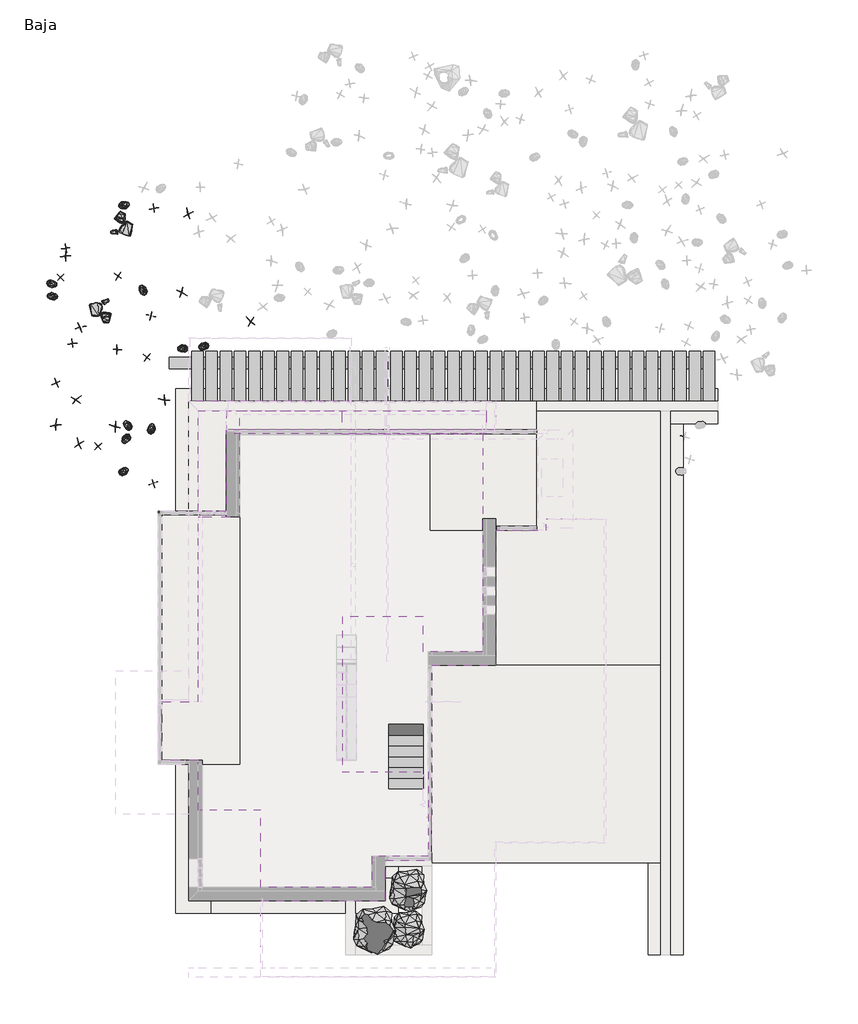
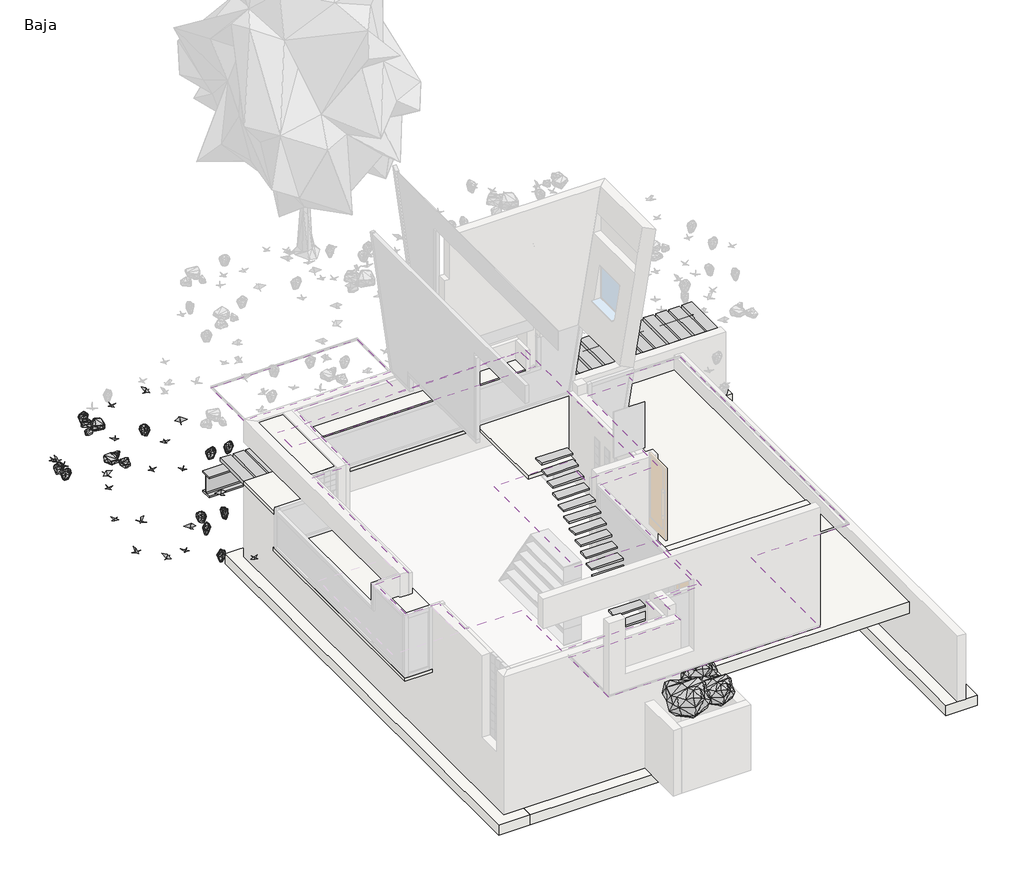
# One storey, part 5 of 7: 38 beams, 36 geographic elements, 10 footings, 7 slabs, 4 coverings, 1 stair flight.
"""IFC4 building model written with IfcOpenShell, lengths in millimetres."""

from ifc_helpers import new_model, si_unit, frame, origin, place, context, project, spatial, polyline, outline, extrude, faceted_brep, transform, mapped, element, save
from components import beam_300_x100_1f1f1255, he_vigas_de_ala_ancha_he_600x337_a84f927f, geographic_element_19c6f7b0, geographic_element_0c7ed200, geographic_element_4c54da16, enscape_assetdefinition_bush_025_fern_enscape_5718bf32, enscape_assetdefinition_bush_054_plant_09_version_2_enscape_7b546a12, enscape_assetdefinition_bush_062_plant_09_version_3_enscape_ccf8c8eb, enscape_assetdefinition_stone_013_group_enscape_db9b3e91, stair_flight_09f7f50a

model = new_model("IFC4")

# Units and contexts
model_context = context("Model", 3, world=origin())
ifc_project = project(units=[si_unit("LENGTHUNIT", "METRE", prefix="MILLI")], contexts=[model_context])

# Site, building, storey
site = spatial("IfcSite", under=ifc_project)
building = spatial("IfcBuilding", under=site)
storey = spatial("IfcBuildingStorey", under=building, Name="Baja", Elevation=0.0)

# Beams
placement = place(None, origin())
beam_300_x100_shape = beam_300_x100_1f1f1255(model_context)
element("IfcBeam", 1, ObjectType="Glulam-Especies occidentales : 300 x100", at=placement, inside=storey, context=model_context, shape_type="MappedRepresentation", body=[
    mapped(beam_300_x100_shape, transform((9316.4398199, 3257.3330963, 650.0), x_axis=(0.0, -1.0, 0.0), y_axis=(1.0, 0.0, 0.0), z_axis=(0.0, 0.0, 1.0))),
])
element("IfcBeam", 2, ObjectType="Glulam-Especies occidentales : 300 x100", at=placement, inside=storey, context=model_context, shape_type="MappedRepresentation", body=[
    mapped(beam_300_x100_shape, transform((8946.4398199, 3257.3330963, 650.0), x_axis=(0.0, -1.0, 0.0), y_axis=(1.0, 0.0, 0.0), z_axis=(0.0, 0.0, 1.0))),
])
element("IfcBeam", 3, ObjectType="Glulam-Especies occidentales : 300 x100", at=placement, inside=storey, context=model_context, shape_type="MappedRepresentation", body=[
    mapped(beam_300_x100_shape, transform((8576.4398199, 3257.3330963, 650.0), x_axis=(0.0, -1.0, 0.0), y_axis=(1.0, 0.0, 0.0), z_axis=(0.0, 0.0, 1.0))),
])
element("IfcBeam", 4, ObjectType="Glulam-Especies occidentales : 300 x100", at=placement, inside=storey, context=model_context, shape_type="MappedRepresentation", body=[
    mapped(beam_300_x100_shape, transform((8206.4398199, 3257.3330963, 650.0), x_axis=(0.0, -1.0, 0.0), y_axis=(1.0, 0.0, 0.0), z_axis=(0.0, 0.0, 1.0))),
])
element("IfcBeam", 5, ObjectType="Glulam-Especies occidentales : 300 x100", at=placement, inside=storey, context=model_context, shape_type="MappedRepresentation", body=[
    mapped(beam_300_x100_shape, transform((7836.4398199, 3257.3330963, 650.0), x_axis=(0.0, -1.0, 0.0), y_axis=(1.0, 0.0, 0.0), z_axis=(0.0, 0.0, 1.0))),
])
element("IfcBeam", 6, ObjectType="Glulam-Especies occidentales : 300 x100", at=placement, inside=storey, context=model_context, shape_type="MappedRepresentation", body=[
    mapped(beam_300_x100_shape, transform((7466.4398199, 3257.3330963, 650.0), x_axis=(0.0, -1.0, 0.0), y_axis=(1.0, 0.0, 0.0), z_axis=(0.0, 0.0, 1.0))),
])
element("IfcBeam", 7, ObjectType="Glulam-Especies occidentales : 300 x100", at=placement, inside=storey, context=model_context, shape_type="MappedRepresentation", body=[
    mapped(beam_300_x100_shape, transform((7096.4398199, 3257.3330963, 650.0), x_axis=(0.0, -1.0, 0.0), y_axis=(1.0, 0.0, 0.0), z_axis=(0.0, 0.0, 1.0))),
])
element("IfcBeam", 8, ObjectType="Glulam-Especies occidentales : 300 x100", at=placement, inside=storey, context=model_context, shape_type="MappedRepresentation", body=[
    mapped(beam_300_x100_shape, transform((6726.4398199, 3257.3330963, 650.0), x_axis=(0.0, -1.0, 0.0), y_axis=(1.0, 0.0, 0.0), z_axis=(0.0, 0.0, 1.0))),
])
element("IfcBeam", 9, ObjectType="Glulam-Especies occidentales : 300 x100", at=placement, inside=storey, context=model_context, shape_type="MappedRepresentation", body=[
    mapped(beam_300_x100_shape, transform((6356.4398199, 3257.3330963, 650.0), x_axis=(0.0, -1.0, 0.0), y_axis=(1.0, 0.0, 0.0), z_axis=(0.0, 0.0, 1.0))),
])
element("IfcBeam", 10, ObjectType="Glulam-Especies occidentales : 300 x100", at=placement, inside=storey, context=model_context, shape_type="MappedRepresentation", body=[
    mapped(beam_300_x100_shape, transform((5986.4398199, 3257.3330963, 650.0), x_axis=(0.0, -1.0, 0.0), y_axis=(1.0, 0.0, 0.0), z_axis=(0.0, 0.0, 1.0))),
])
element("IfcBeam", 11, ObjectType="Glulam-Especies occidentales : 300 x100", at=placement, inside=storey, context=model_context, shape_type="MappedRepresentation", body=[
    mapped(beam_300_x100_shape, transform((5616.4398199, 3257.3330963, 650.0), x_axis=(0.0, -1.0, 0.0), y_axis=(1.0, 0.0, 0.0), z_axis=(0.0, 0.0, 1.0))),
])
element("IfcBeam", 12, ObjectType="Glulam-Especies occidentales : 300 x100", at=placement, inside=storey, context=model_context, shape_type="MappedRepresentation", body=[
    mapped(beam_300_x100_shape, transform((5246.4398199, 3257.3330963, 650.0), x_axis=(0.0, -1.0, 0.0), y_axis=(1.0, 0.0, 0.0), z_axis=(0.0, 0.0, 1.0))),
])
element("IfcBeam", 13, ObjectType="Glulam-Especies occidentales : 300 x100", at=placement, inside=storey, context=model_context, shape_type="MappedRepresentation", body=[
    mapped(beam_300_x100_shape, transform((4876.4398199, 3257.3330963, 650.0), x_axis=(0.0, -1.0, 0.0), y_axis=(1.0, 0.0, 0.0), z_axis=(0.0, 0.0, 1.0))),
])
element("IfcBeam", 14, ObjectType="Glulam-Especies occidentales : 300 x100", at=placement, inside=storey, context=model_context, shape_type="MappedRepresentation", body=[
    mapped(beam_300_x100_shape, transform((4506.4398199, 3257.3330963, 650.0), x_axis=(0.0, -1.0, 0.0), y_axis=(1.0, 0.0, 0.0), z_axis=(0.0, 0.0, 1.0))),
])
element("IfcBeam", 15, ObjectType="Glulam-Especies occidentales : 300 x100", at=placement, inside=storey, context=model_context, shape_type="MappedRepresentation", body=[
    mapped(beam_300_x100_shape, transform((4136.4398199, 3257.3330963, 650.0), x_axis=(0.0, -1.0, 0.0), y_axis=(1.0, 0.0, 0.0), z_axis=(0.0, 0.0, 1.0))),
])
element("IfcBeam", 16, ObjectType="Glulam-Especies occidentales : 300 x100", at=placement, inside=storey, context=model_context, shape_type="MappedRepresentation", body=[
    mapped(beam_300_x100_shape, transform((3766.4398199, 3257.3330963, 650.0), x_axis=(0.0, -1.0, 0.0), y_axis=(1.0, 0.0, 0.0), z_axis=(0.0, 0.0, 1.0))),
])
element("IfcBeam", 17, ObjectType="Glulam-Especies occidentales : 300 x100", at=placement, inside=storey, context=model_context, shape_type="MappedRepresentation", body=[
    mapped(beam_300_x100_shape, transform((3396.4398199, 3257.3330963, 650.0), x_axis=(0.0, -1.0, 0.0), y_axis=(1.0, 0.0, 0.0), z_axis=(0.0, 0.0, 1.0))),
])
element("IfcBeam", 18, ObjectType="Glulam-Especies occidentales : 300 x100", at=placement, inside=storey, context=model_context, shape_type="MappedRepresentation", body=[
    mapped(beam_300_x100_shape, transform((3026.4398199, 3257.3330963, 650.0), x_axis=(0.0, -1.0, 0.0), y_axis=(1.0, 0.0, 0.0), z_axis=(0.0, 0.0, 1.0))),
])
element("IfcBeam", 19, ObjectType="Glulam-Especies occidentales : 300 x100", at=placement, inside=storey, context=model_context, shape_type="MappedRepresentation", body=[
    mapped(beam_300_x100_shape, transform((2656.4398199, 3257.3330963, 650.0), x_axis=(0.0, -1.0, 0.0), y_axis=(1.0, 0.0, 0.0), z_axis=(0.0, 0.0, 1.0))),
])
element("IfcBeam", 20, ObjectType="Glulam-Especies occidentales : 300 x100", at=placement, inside=storey, context=model_context, shape_type="MappedRepresentation", body=[
    mapped(beam_300_x100_shape, transform((2286.4398199, 3257.3330963, 650.0), x_axis=(0.0, -1.0, 0.0), y_axis=(1.0, 0.0, 0.0), z_axis=(0.0, 0.0, 1.0))),
])
element("IfcBeam", 21, ObjectType="Glulam-Especies occidentales : 300 x100", at=placement, inside=storey, context=model_context, shape_type="MappedRepresentation", body=[
    mapped(beam_300_x100_shape, transform((1916.4398199, 3257.3330963, 650.0), x_axis=(0.0, -1.0, 0.0), y_axis=(1.0, 0.0, 0.0), z_axis=(0.0, 0.0, 1.0))),
])
element("IfcBeam", 22, ObjectType="Glulam-Especies occidentales : 300 x100", at=placement, inside=storey, context=model_context, shape_type="MappedRepresentation", body=[
    mapped(beam_300_x100_shape, transform((1546.4398199, 3257.3330963, 650.0), x_axis=(0.0, -1.0, 0.0), y_axis=(1.0, 0.0, 0.0), z_axis=(0.0, 0.0, 1.0))),
])
element("IfcBeam", 23, ObjectType="Glulam-Especies occidentales : 300 x100", at=placement, inside=storey, context=model_context, shape_type="MappedRepresentation", body=[
    mapped(beam_300_x100_shape, transform((1176.4398199, 3257.3330963, 650.0), x_axis=(0.0, -1.0, 0.0), y_axis=(1.0, 0.0, 0.0), z_axis=(0.0, 0.0, 1.0))),
])
element("IfcBeam", 24, ObjectType="Glulam-Especies occidentales : 300 x100", at=placement, inside=storey, context=model_context, shape_type="MappedRepresentation", body=[
    mapped(beam_300_x100_shape, transform((806.4398199, 3257.3330963, 650.0), x_axis=(0.0, -1.0, 0.0), y_axis=(1.0, 0.0, 0.0), z_axis=(0.0, 0.0, 1.0))),
])
element("IfcBeam", 25, ObjectType="Glulam-Especies occidentales : 300 x100", at=placement, inside=storey, context=model_context, shape_type="MappedRepresentation", body=[
    mapped(beam_300_x100_shape, transform((436.4398199, 3257.3330963, 650.0), x_axis=(0.0, -1.0, 0.0), y_axis=(1.0, 0.0, 0.0), z_axis=(0.0, 0.0, 1.0))),
])
element("IfcBeam", 26, ObjectType="Glulam-Especies occidentales : 300 x100", at=placement, inside=storey, context=model_context, shape_type="MappedRepresentation", body=[
    mapped(beam_300_x100_shape, transform((66.4398199, 3257.3330963, 650.0), x_axis=(0.0, -1.0, 0.0), y_axis=(1.0, 0.0, 0.0), z_axis=(0.0, 0.0, 1.0))),
])
element("IfcBeam", 27, ObjectType="Glulam-Especies occidentales : 300 x100", at=placement, inside=storey, context=model_context, shape_type="MappedRepresentation", body=[
    mapped(beam_300_x100_shape, transform((-303.5601801, 3257.3330963, 650.0), x_axis=(0.0, -1.0, 0.0), y_axis=(1.0, 0.0, 0.0), z_axis=(0.0, 0.0, 1.0))),
])
element("IfcBeam", 28, ObjectType="Glulam-Especies occidentales : 300 x100", at=placement, inside=storey, context=model_context, shape_type="MappedRepresentation", body=[
    mapped(beam_300_x100_shape, transform((-673.5601801, 3257.3330963, 650.0), x_axis=(0.0, -1.0, 0.0), y_axis=(1.0, 0.0, 0.0), z_axis=(0.0, 0.0, 1.0))),
])
element("IfcBeam", 29, ObjectType="Glulam-Especies occidentales : 300 x100", at=placement, inside=storey, context=model_context, shape_type="MappedRepresentation", body=[
    mapped(beam_300_x100_shape, transform((-1043.5601801, 3257.3330963, 650.0), x_axis=(0.0, -1.0, 0.0), y_axis=(1.0, 0.0, 0.0), z_axis=(0.0, 0.0, 1.0))),
])
element("IfcBeam", 30, ObjectType="Glulam-Especies occidentales : 300 x100", at=placement, inside=storey, context=model_context, shape_type="MappedRepresentation", body=[
    mapped(beam_300_x100_shape, transform((-1413.5601801, 3257.3330963, 650.0), x_axis=(0.0, -1.0, 0.0), y_axis=(1.0, 0.0, 0.0), z_axis=(0.0, 0.0, 1.0))),
])
element("IfcBeam", 31, ObjectType="Glulam-Especies occidentales : 300 x100", at=placement, inside=storey, context=model_context, shape_type="MappedRepresentation", body=[
    mapped(beam_300_x100_shape, transform((-1783.5601801, 3257.3330963, 650.0), x_axis=(0.0, -1.0, 0.0), y_axis=(1.0, 0.0, 0.0), z_axis=(0.0, 0.0, 1.0))),
])
element("IfcBeam", 32, ObjectType="Glulam-Especies occidentales : 300 x100", at=placement, inside=storey, context=model_context, shape_type="MappedRepresentation", body=[
    mapped(beam_300_x100_shape, transform((-2153.5601801, 3257.3330963, 650.0), x_axis=(0.0, -1.0, 0.0), y_axis=(1.0, 0.0, 0.0), z_axis=(0.0, 0.0, 1.0))),
])
element("IfcBeam", 33, ObjectType="Glulam-Especies occidentales : 300 x100", at=placement, inside=storey, context=model_context, shape_type="MappedRepresentation", body=[
    mapped(beam_300_x100_shape, transform((-2523.5601801, 3257.3330963, 650.0), x_axis=(0.0, -1.0, 0.0), y_axis=(1.0, 0.0, 0.0), z_axis=(0.0, 0.0, 1.0))),
])
element("IfcBeam", 34, ObjectType="Glulam-Especies occidentales : 300 x100", at=placement, inside=storey, context=model_context, shape_type="MappedRepresentation", body=[
    mapped(beam_300_x100_shape, transform((-2893.5601801, 3257.3330963, 650.0), x_axis=(0.0, -1.0, 0.0), y_axis=(1.0, 0.0, 0.0), z_axis=(0.0, 0.0, 1.0))),
])
element("IfcBeam", 35, ObjectType="Glulam-Especies occidentales : 300 x100", at=placement, inside=storey, context=model_context, shape_type="MappedRepresentation", body=[
    mapped(beam_300_x100_shape, transform((-3263.5601801, 3257.3330963, 650.0), x_axis=(0.0, -1.0, 0.0), y_axis=(1.0, 0.0, 0.0), z_axis=(0.0, 0.0, 1.0))),
])
element("IfcBeam", 36, ObjectType="Glulam-Especies occidentales : 300 x100", at=placement, inside=storey, context=model_context, shape_type="MappedRepresentation", body=[
    mapped(beam_300_x100_shape, transform((-3633.5601801, 3257.3330963, 650.0), x_axis=(0.0, -1.0, 0.0), y_axis=(1.0, 0.0, 0.0), z_axis=(0.0, 0.0, 1.0))),
])
element("IfcBeam", 37, ObjectType="Glulam-Especies occidentales : 300 x100", at=placement, inside=storey, context=model_context, shape_type="MappedRepresentation", body=[
    mapped(beam_300_x100_shape, transform((-4003.5601801, 3257.3330963, 650.0), x_axis=(0.0, -1.0, 0.0), y_axis=(1.0, 0.0, 0.0), z_axis=(0.0, 0.0, 1.0))),
])
he_vigas_de_ala_ancha_he_600x337_shape = he_vigas_de_ala_ancha_he_600x337_a84f927f(model_context)
element("IfcBeam", 38, ObjectType="HE - Vigas de ala ancha : HE 600x337", at=placement, inside=storey, context=model_context, shape_type="MappedRepresentation", body=[
    mapped(he_vigas_de_ala_ancha_he_600x337_shape, transform((2510.4869077, 3607.3330963, 284.0), x_axis=(1.0, 0.0, 0.0), y_axis=(0.0, 1.0, 0.0), z_axis=(0.0, 0.0, 1.0))),
])

# Coverings
element("IfcCovering", 39, ObjectType="Falso techo continuo de placa de yeso laminado", at=placement, inside=storey, context=model_context, shape_type="Brep", body=[
    faceted_brep([(-3981.0601801, -5212.6669037, 2700.0), (-4931.0601801, -5212.6669037, 2700.0), (-4931.0601801, -6738.9241022, 2700.0), (-3981.0601801, -6738.9241022, 2700.0), (-3981.0601801, -8042.6669037, 2700.0), (-3881.0601801, -8042.6669037, 2700.0), (-2353.1025942, -8042.6669037, 2700.0), (-2353.1025942, -10047.6669037, 2700.0), (536.8974058, -10047.6669037, 2700.0), (536.8974058, -9242.6669037, 2700.0), (2001.6012558, -9242.6669037, 2700.0), (2001.6012558, -7042.6669037, 2700.0), (-240.8601801, -7042.6669037, 2700.0), (-240.8601801, -3002.6669037, 2700.0), (1871.6012558, -3002.6669037, 2700.0), (1871.6012558, -3912.6669037, 2700.0), (3418.9398199, -3912.6669037, 2700.0), (3418.9398199, 1769.072658, 2700.0), (-250.8601801, 1769.072658, 2700.0), (-250.8601801, 2357.3330963, 2700.0), (-2900.1061235, 2357.3330963, 2700.0), (-2900.1061235, -299.0350234, 2700.0), (-2900.1061235, -399.0350234, 2700.0), (-3981.0601801, -399.0350234, 2700.0), (-3981.0601801, -5212.6669037, 2650.0), (-3981.0601801, -399.0350234, 2650.0), (-3881.0601801, -399.0350234, 2650.0), (-2900.1061235, -399.0350234, 2650.0), (-2900.1061235, 2357.3330963, 2650.0), (-250.8601801, 2357.3330963, 2650.0), (-250.8601801, 1769.072658, 2650.0), (3418.9398199, 1769.072658, 2650.0), (3418.9398199, -3912.6669037, 2650.0), (1871.6012558, -3912.6669037, 2650.0), (1871.6012558, -3002.6669037, 2650.0), (-240.8601801, -3002.6669037, 2650.0), (-240.8601801, -7042.6669037, 2650.0), (2001.6012558, -7042.6669037, 2650.0), (2001.6012558, -9242.6669037, 2650.0), (536.8974058, -9242.6669037, 2650.0), (536.8974058, -10047.6669037, 2650.0), (-2353.1025942, -10047.6669037, 2650.0), (-2353.1025942, -8042.6669037, 2650.0), (-3881.0601801, -8042.6669037, 2650.0), (-3981.0601801, -8042.6669037, 2650.0), (-3981.0601801, -6838.9241022, 2650.0), (-3981.0601801, -6738.9241022, 2650.0), (-4931.0601801, -6738.9241022, 2650.0), (-4931.0601801, -5212.6669037, 2650.0)], [[[0, 1, 2, 3, 4, 5, 6, 7, 8, 9, 10, 11, 12, 13, 14, 15, 16, 17, 18, 19, 20, 21, 22, 23]], [[24, 25, 26, 27, 28, 29, 30, 31, 32, 33, 34, 35, 36, 37, 38, 39, 40, 41, 42, 43, 44, 45, 46, 47, 48]], [[1, 0, 24, 48]], [[2, 1, 48, 47]], [[3, 2, 47, 46]], [[4, 3, 46, 45, 44]], [[6, 5, 4, 44, 43, 42]], [[7, 6, 42, 41]], [[8, 7, 41, 40]], [[9, 8, 40, 39]], [[10, 9, 39, 38]], [[11, 10, 38, 37]], [[12, 11, 37, 36]], [[13, 12, 36, 35]], [[14, 13, 35, 34]], [[15, 14, 34, 33]], [[16, 15, 33, 32]], [[17, 16, 32, 31]], [[18, 17, 31, 30]], [[19, 18, 30, 29]], [[20, 19, 29, 28]], [[22, 21, 20, 28, 27]], [[23, 22, 27, 26, 25]], [[0, 23, 25, 24]]]),
])
element("IfcCovering", 40, ObjectType="Techo falso de placa de metal", at=placement, inside=storey, context=model_context, shape_type="SweptSolid", body=[
    extrude(outline(polyline([(5072.3326294, -443.1853621), (6621.690629, -443.1853621), (6621.690629, -8892.6669037), (3768.9398199, -8892.6669037), (3768.9398199, -12392.6669037), (-2353.1025942, -12392.6669037), (-2353.1025942, -10392.6669037), (886.8974058, -10392.6669037), (886.8974058, -9342.6669037), (2101.6012558, -9342.6669037), (2101.6012558, -4262.6669037), (3768.9398199, -4262.6669037), (3768.9398199, -743.1853621), (5072.3326294, -743.1853621), (5072.3326294, -443.1853621)])), frame((0.0, 0.0, 2650.0), z_axis=(0.0, 0.0, 1.0), x_axis=(1.0, 0.0, 0.0)), (0.0, 0.0, 1.0), 10.0),
])
element("IfcCovering", 41, ObjectType="Techo falso de placa de metal", at=placement, inside=storey, context=model_context, shape_type="SweptSolid", body=[
    extrude(outline(polyline([(-3250.1061235, 2607.3330963), (3768.9398199, 2607.3330963), (3768.9398199, 1869.072658), (-3250.1061235, 1869.072658), (-3250.1061235, 2607.3330963)])), frame((0.0, 0.0, 1950.0), z_axis=(0.0, 0.0, 1.0), x_axis=(1.0, 0.0, 0.0)), (0.0, 0.0, 1.0), 10.0),
])
element("IfcCovering", 42, ObjectType="Techo falso de placa de metal", at=placement, inside=storey, context=model_context, shape_type="SweptSolid", body=[
    extrude(outline(polyline([(-0.8601801, 4261.8960075), (-0.8601801, 2607.3330963), (-4231.0601801, 2607.3330963), (-4231.0601801, 4261.8960075), (-0.8601801, 4261.8960075)])), frame((0.0, 0.0, 2650.0), z_axis=(0.0, 0.0, 1.0), x_axis=(1.0, 0.0, 0.0)), (0.0, 0.0, 1.0), 10.0),
])

# Footings
element("IfcFooting", 43, ObjectType="Cimentación de muro", at=placement, inside=storey, context=model_context, shape_type="Brep", body=[
    faceted_brep([(-4563.2601801, 2939.5330963, -1500.0), (-4563.2601801, -10724.8669037, -1500.0), (-3648.8601801, -10724.8669037, -1500.0), (-3648.8601801, -9810.4669037, -1500.0), (-3648.8601801, 2025.1330963, -1500.0), (-3648.8601801, 2939.5330963, -1500.0), (-3648.8601801, 2939.5330963, -1804.8), (-3648.8601801, -10724.8669037, -1804.8), (-3648.8601801, -9810.4669037, -1804.8), (-3648.8601801, 2025.1330963, -1804.8), (-4563.2601801, 2939.5330963, -1804.8), (-4563.2601801, -10724.8669037, -1804.8)], [[[0, 1, 2, 3, 4, 5]], [[6, 5, 4, 3, 2, 7, 8, 9]], [[10, 6, 9, 8, 7, 11]], [[0, 10, 11, 1]], [[0, 5, 6, 10]], [[2, 1, 11, 7]]]),
])
element("IfcFooting", 44, ObjectType="Cimentación de muro", at=placement, inside=storey, context=model_context, shape_type="Brep", body=[
    faceted_brep([(4101.1398199, 2025.1330963, -1500.0), (4101.1398199, 2939.5330963, -1500.0), (-3648.8601801, 2939.5330963, -1500.0), (-3648.8601801, 2025.1330963, -1500.0), (3186.7398199, 2025.1330963, -1500.0), (4101.1398199, 2025.1330963, -1804.8), (-3648.8601801, 2025.1330963, -1804.8), (3186.7398199, 2025.1330963, -1804.8), (4101.1398199, 2939.5330963, -1804.8), (-3648.8601801, 2939.5330963, -1804.8)], [[[0, 1, 2, 3, 4]], [[5, 0, 4, 3, 6, 7]], [[8, 5, 7, 6, 9]], [[1, 8, 9, 2]], [[3, 2, 9, 6]], [[1, 0, 5, 8]]]),
])
element("IfcFooting", 45, ObjectType="Cimentación de muro", at=placement, inside=storey, context=model_context, shape_type="SweptSolid", body=[
    extrude(outline(polyline([(3768.9398199, 2025.1330963), (3768.9398199, 2939.5330963), (9543.9398199, 2939.5330963), (9543.9398199, 2025.1330963), (3768.9398199, 2025.1330963)])), frame((0.0, 0.0, -1304.8), z_axis=(0.0, 0.0, 1.0), x_axis=(1.0, 0.0, 0.0)), (0.0, 0.0, 1.0), 304.8),
])
element("IfcFooting", 46, ObjectType="Cimentación de muro", at=placement, inside=storey, context=model_context, shape_type="Brep", body=[
    faceted_brep([(3643.9398199, -4137.6669037, -1500.0), (3768.9398199, -4137.6669037, -1500.0), (4101.1398199, -4137.6669037, -1500.0), (4101.1398199, -3680.4669037, -1500.0), (4101.1398199, 2025.1330963, -1500.0), (3186.7398199, 2025.1330963, -1500.0), (3186.7398199, -3680.4669037, -1500.0), (3186.7398199, -4137.6669037, -1500.0), (3186.7398199, -4137.6669037, -1804.8), (3186.7398199, 2025.1330963, -1804.8), (3186.7398199, -3680.4669037, -1804.8), (3643.9398199, -4137.6669037, -1804.8), (4101.1398199, 2025.1330963, -1804.8), (4101.1398199, -3680.4669037, -1804.8), (4101.1398199, -4137.6669037, -1804.8), (3768.9398199, -4137.6669037, -1804.8)], [[[0, 1, 2, 3, 4, 5, 6, 7]], [[8, 7, 6, 5, 9, 10]], [[11, 8, 10, 9, 12, 13, 14, 15]], [[2, 14, 13, 12, 4, 3]], [[5, 4, 12, 9]], [[14, 2, 1, 0, 11, 15]], [[7, 8, 11, 0]]]),
])
element("IfcFooting", 47, ObjectType="Cimentación de muro", at=placement, inside=storey, context=model_context, shape_type="SweptSolid", body=[
    extrude(outline(polyline([(2001.6012558, -4594.8669037), (2001.6012558, -3680.4669037), (3186.7398199, -3680.4669037), (3186.7398199, -4137.6669037), (3643.9398199, -4137.6669037), (3768.9398199, -4137.6669037), (3768.9398199, -4594.8669037), (2001.6012558, -4594.8669037)])), frame((0.0, 0.0, -1804.8), z_axis=(0.0, 0.0, 1.0), x_axis=(1.0, 0.0, 0.0)), (0.0, 0.0, 1.0), 304.8),
])
element("IfcFooting", 48, ObjectType="Cimentación de muro", at=placement, inside=storey, context=model_context, shape_type="SweptSolid", body=[
    extrude(outline(polyline([(7729.4012558, -4594.8669037), (3768.9398199, -4594.8669037), (3768.9398199, -4137.6669037), (4101.1398199, -4137.6669037), (4101.1398199, -3680.4669037), (7729.4012558, -3680.4669037), (7729.4012558, -4594.8669037)])), frame((0.0, 0.0, -1804.8), z_axis=(0.0, 0.0, 1.0), x_axis=(1.0, 0.0, 0.0)), (0.0, 0.0, 1.0), 304.8),
])
element("IfcFooting", 49, ObjectType="Cimentación de muro", at=placement, inside=storey, context=model_context, shape_type="Brep", body=[
    faceted_brep([(7729.4012558, 2357.3330963, -1500.0), (8643.8012558, 2357.3330963, -1500.0), (8643.8012558, 2357.3330963, -1804.8), (7729.4012558, 2357.3330963, -1804.8), (8643.8012558, -11802.6669037, -1500.0), (7729.4012558, -11802.6669037, -1500.0), (7729.4012558, -11802.6669037, -1804.8), (8643.8012558, -11802.6669037, -1804.8), (7729.4012558, -3680.4669037, -1500.0), (7729.4012558, -4594.8669037, -1500.0), (7729.4012558, -4594.8669037, -1804.8), (7729.4012558, -3680.4669037, -1804.8)], [[[0, 1, 2, 3]], [[4, 5, 6, 7]], [[0, 8, 9, 5, 4, 1]], [[2, 1, 4, 7]], [[3, 2, 7, 6, 10, 11]], [[0, 3, 11, 10, 6, 5, 9, 8]]]),
])
element("IfcFooting", 50, ObjectType="Cimentación de muro", at=placement, inside=storey, context=model_context, shape_type="Brep", body=[
    faceted_brep([(1219.0974058, -10724.8669037, -1500.0), (1219.0974058, -9824.8669037, -1500.0), (1219.0974058, -9810.4669037, -1500.0), (304.6974058, -9810.4669037, -1500.0), (-3648.8601801, -9810.4669037, -1500.0), (-3648.8601801, -10724.8669037, -1500.0), (1219.0974058, -9810.4669037, -1804.8), (304.6974058, -9810.4669037, -1804.8), (-3648.8601801, -9810.4669037, -1804.8), (1219.0974058, -9824.8669037, -1804.8), (1219.0974058, -10724.8669037, -1804.8), (-3648.8601801, -10724.8669037, -1804.8)], [[[0, 1, 2, 3, 4, 5]], [[2, 6, 7, 8, 4, 3]], [[6, 9, 10, 11, 8, 7]], [[10, 0, 5, 11]], [[5, 4, 8, 11]], [[2, 1, 0, 10, 9, 6]]]),
])
element("IfcFooting", 51, ObjectType="Cimentación de muro", at=placement, inside=storey, context=model_context, shape_type="SweptSolid", body=[
    extrude(outline(polyline([(304.6974058, -8910.4669037), (1219.0974058, -8910.4669037), (1219.0974058, -9810.4669037), (304.6974058, -9810.4669037), (304.6974058, -8910.4669037)])), frame((0.0, 0.0, -1804.8), z_axis=(0.0, 0.0, 1.0), x_axis=(1.0, 0.0, 0.0)), (0.0, 0.0, 1.0), 304.8),
])
element("IfcFooting", 52, ObjectType="Cimentación de muro", at=placement, inside=storey, context=model_context, shape_type="Brep", body=[
    faceted_brep([(2101.6012558, -8910.4669037, -1804.8), (2101.6012558, -8910.4669037, -1500.0), (2101.6012558, -9824.8669037, -1500.0), (2101.6012558, -9824.8669037, -1804.8), (1219.0974058, -8910.4669037, -1500.0), (1219.0974058, -9810.4669037, -1500.0), (1219.0974058, -9824.8669037, -1500.0), (1219.0974058, -8910.4669037, -1804.8), (1219.0974058, -9824.8669037, -1804.8), (1219.0974058, -9810.4669037, -1804.8)], [[[0, 1, 2, 3]], [[2, 1, 4, 5, 6]], [[1, 0, 7, 4]], [[0, 3, 8, 9, 7]], [[3, 2, 6, 8]], [[4, 7, 9, 8, 6, 5]]]),
])

# Geographic elements
geographic_element_shape = geographic_element_19c6f7b0(model_context)
element("IfcGeographicElement", 53, ObjectType="Enscape AssetDefinition - Asparagaceae 001 Agave : Enscape AssetDefinition - Asparagaceae 001 Agave 2", at=placement, inside=storey, context=model_context, shape_type="MappedRepresentation", body=[
    mapped(geographic_element_shape, transform((1511.6012558, -10147.6669037, 452.3825909), x_axis=(1.0, 0.0, 0.0), y_axis=(0.0, 1.0, 0.0), z_axis=(0.0, 0.0, 1.0))),
])
geographic_element_2_shape = geographic_element_0c7ed200(model_context)
element("IfcGeographicElement", 54, ObjectType="Enscape AssetDefinition - Asparagaceae 001 Agave : Enscape AssetDefinition - Asparagaceae 001 Agave 3", at=placement, inside=storey, context=model_context, shape_type="MappedRepresentation", body=[
    mapped(geographic_element_2_shape, transform((1506.484046, -11154.5138733, 450.0), x_axis=(1.0, 0.0, 0.0), y_axis=(0.0, 1.0, 0.0), z_axis=(0.0, 0.0, 1.0))),
])
geographic_element_3_shape = geographic_element_4c54da16(model_context)
element("IfcGeographicElement", 55, ObjectType="Enscape AssetDefinition - Asparagaceae 001 Agave : Enscape AssetDefinition - Asparagaceae 001 Agave 4", at=placement, inside=storey, context=model_context, shape_type="MappedRepresentation", body=[
    mapped(geographic_element_3_shape, transform((636.8974058, -11188.0358996, 450.0), x_axis=(1.0, 0.0, 0.0), y_axis=(0.0, 1.0, 0.0), z_axis=(0.0, 0.0, 1.0))),
])
enscape_assetdefinition_bush_025_fern_enscape_shape = enscape_assetdefinition_bush_025_fern_enscape_5718bf32(model_context)
element("IfcGeographicElement", 56, ObjectType="Enscape AssetDefinition - Bush 025 Fern : Enscape AssetDefinition - Bush 025 Fern", at=placement, inside=storey, context=model_context, shape_type="MappedRepresentation", body=[
    mapped(enscape_assetdefinition_bush_025_fern_enscape_shape, transform((-5920.4330444, 785.1753235, 93.0739641), x_axis=(0.7633260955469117, 0.6460133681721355, 0.0), y_axis=(-0.6460133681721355, 0.7633260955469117, 0.0), z_axis=(0.0, 0.0, 1.0))),
])
element("IfcGeographicElement", 57, ObjectType="Enscape AssetDefinition - Bush 025 Fern : Enscape AssetDefinition - Bush 025 Fern", at=placement, inside=storey, context=model_context, shape_type="MappedRepresentation", body=[
    mapped(enscape_assetdefinition_bush_025_fern_enscape_shape, transform((-5199.6440887, 1897.9740143, 470.0302482), x_axis=(0.14500474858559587, 0.9894309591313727, 0.0), y_axis=(-0.9894309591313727, 0.14500474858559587, 0.0), z_axis=(0.0, 0.0, 1.0))),
])
element("IfcGeographicElement", 58, ObjectType="Enscape AssetDefinition - Bush 025 Fern : Enscape AssetDefinition - Bush 025 Fern", at=placement, inside=storey, context=model_context, shape_type="MappedRepresentation", body=[
    mapped(enscape_assetdefinition_bush_025_fern_enscape_shape, transform((-5423.1891632, 5513.3571625, 887.5567317), x_axis=(-0.5846040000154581, 0.8113187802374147, 0.0), y_axis=(-0.8113187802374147, -0.5846040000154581, 0.0), z_axis=(0.0, 0.0, 1.0))),
])
element("IfcGeographicElement", 59, ObjectType="Enscape AssetDefinition - Bush 025 Fern : Enscape AssetDefinition - Bush 025 Fern", at=placement, inside=storey, context=model_context, shape_type="MappedRepresentation", body=[
    mapped(enscape_assetdefinition_bush_025_fern_enscape_shape, transform((-3852.1118164, 4042.0398712, 684.2445135), x_axis=(-0.8869092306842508, -0.46194373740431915, 0.0), y_axis=(0.46194373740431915, -0.8869092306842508, 0.0), z_axis=(0.0, 0.0, 1.0))),
])
element("IfcGeographicElement", 60, ObjectType="Enscape AssetDefinition - Bush 025 Fern : Enscape AssetDefinition - Bush 025 Fern", at=placement, inside=storey, context=model_context, shape_type="MappedRepresentation", body=[
    mapped(enscape_assetdefinition_bush_025_fern_enscape_shape, transform((-5869.9851036, 1627.948761, 370.4769611), x_axis=(-0.5559727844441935, -0.8312004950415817, 0.0), y_axis=(0.8312004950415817, -0.5559727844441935, 0.0), z_axis=(0.0, 0.0, 1.0))),
])
element("IfcGeographicElement", 61, ObjectType="Enscape AssetDefinition - Bush 025 Fern : Enscape AssetDefinition - Bush 025 Fern", at=placement, inside=storey, context=model_context, shape_type="MappedRepresentation", body=[
    mapped(enscape_assetdefinition_bush_025_fern_enscape_shape, transform((-5821.2890625, 1988.2602692, 501.2610555), x_axis=(-0.6814339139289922, 0.7318796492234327, 0.0), y_axis=(-0.7318796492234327, -0.6814339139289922, 0.0), z_axis=(0.0, 0.0, 1.0))),
])
element("IfcGeographicElement", 62, ObjectType="Enscape AssetDefinition - Bush 025 Fern : Enscape AssetDefinition - Bush 025 Fern", at=placement, inside=storey, context=model_context, shape_type="MappedRepresentation", body=[
    mapped(enscape_assetdefinition_bush_025_fern_enscape_shape, transform((-4393.7149048, 3987.9589081, 733.5207462), x_axis=(-0.9932566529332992, -0.11593628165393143, 0.0), y_axis=(0.11593628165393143, -0.9932566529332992, 0.0), z_axis=(0.0, 0.0, 1.0))),
])
element("IfcGeographicElement", 63, ObjectType="Enscape AssetDefinition - Bush 025 Fern : Enscape AssetDefinition - Bush 025 Fern", at=placement, inside=storey, context=model_context, shape_type="MappedRepresentation", body=[
    mapped(enscape_assetdefinition_bush_025_fern_enscape_shape, transform((-5906.6543579, 7712.7857208, 97.3309278), x_axis=(0.962883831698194, 0.2699161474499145, 0.0), y_axis=(-0.2699161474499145, 0.962883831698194, 0.0), z_axis=(0.0, 0.0, 1.0))),
])
element("IfcGeographicElement", 64, ObjectType="Enscape AssetDefinition - Bush 025 Fern : Enscape AssetDefinition - Bush 025 Fern", at=placement, inside=storey, context=model_context, shape_type="MappedRepresentation", body=[
    mapped(enscape_assetdefinition_bush_025_fern_enscape_shape, transform((-7791.6836739, 5348.4611511, 454.6558857), x_axis=(-0.9999480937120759, 0.010188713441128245, 0.0), y_axis=(-0.010188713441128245, -0.9999480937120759, 0.0), z_axis=(0.0, 0.0, 1.0))),
])
element("IfcGeographicElement", 65, ObjectType="Enscape AssetDefinition - Bush 025 Fern : Enscape AssetDefinition - Bush 025 Fern", at=placement, inside=storey, context=model_context, shape_type="MappedRepresentation", body=[
    mapped(enscape_assetdefinition_bush_025_fern_enscape_shape, transform((-7790.2259827, 5663.526535, 448.4529495), x_axis=(0.9924738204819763, -0.12245699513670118, 0.0), y_axis=(0.12245699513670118, 0.9924738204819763, 0.0), z_axis=(0.0, 0.0, 1.0))),
])
enscape_assetdefinition_bush_054_plant_09_version_2_enscape_shape = enscape_assetdefinition_bush_054_plant_09_version_2_enscape_7b546a12(model_context)
element("IfcGeographicElement", 66, ObjectType="Enscape AssetDefinition - Bush 054 Plant 09, Version 2 : Enscape AssetDefinition - Bush 054 Plant 09, Version 2", at=placement, inside=storey, context=model_context, shape_type="MappedRepresentation", body=[
    mapped(enscape_assetdefinition_bush_054_plant_09_version_2_enscape_shape, transform((-6099.3499756, 3961.0404968, 963.8905525), x_axis=(-0.9999760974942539, -0.0069140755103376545, 0.0), y_axis=(0.0069140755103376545, -0.9999760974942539, 0.0), z_axis=(0.0, 0.0, 1.0))),
])
element("IfcGeographicElement", 67, ObjectType="Enscape AssetDefinition - Bush 054 Plant 09, Version 2 : Enscape AssetDefinition - Bush 054 Plant 09, Version 2", at=placement, inside=storey, context=model_context, shape_type="MappedRepresentation", body=[
    mapped(enscape_assetdefinition_bush_054_plant_09_version_2_enscape_shape, transform((-5151.4892578, 471.8608558, 46.7858315), x_axis=(-0.33914518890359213, 0.9407340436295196, 0.0), y_axis=(-0.9407340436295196, -0.33914518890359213, 0.0), z_axis=(0.0, 0.0, 1.0))),
])
element("IfcGeographicElement", 68, ObjectType="Enscape AssetDefinition - Bush 054 Plant 09, Version 2 : Enscape AssetDefinition - Bush 054 Plant 09, Version 2", at=placement, inside=storey, context=model_context, shape_type="MappedRepresentation", body=[
    mapped(enscape_assetdefinition_bush_054_plant_09_version_2_enscape_shape, transform((-6074.0833282, 5868.8602448, 721.0134864), x_axis=(0.869392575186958, -0.49412199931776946, 0.0), y_axis=(0.49412199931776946, 0.869392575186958, 0.0), z_axis=(0.0, 0.0, 1.0))),
])
element("IfcGeographicElement", 69, ObjectType="Enscape AssetDefinition - Bush 054 Plant 09, Version 2 : Enscape AssetDefinition - Bush 054 Plant 09, Version 2", at=placement, inside=storey, context=model_context, shape_type="MappedRepresentation", body=[
    mapped(enscape_assetdefinition_bush_054_plant_09_version_2_enscape_shape, transform((-7571.7868805, 5841.5184021, 453.5806775), x_axis=(-0.6773890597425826, -0.7356249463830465, 0.0), y_axis=(0.7356249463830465, -0.6773890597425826, 0.0), z_axis=(0.0, 0.0, 1.0))),
])
element("IfcGeographicElement", 70, ObjectType="Enscape AssetDefinition - Bush 054 Plant 09, Version 2 : Enscape AssetDefinition - Bush 054 Plant 09, Version 2", at=placement, inside=storey, context=model_context, shape_type="MappedRepresentation", body=[
    mapped(enscape_assetdefinition_bush_054_plant_09_version_2_enscape_shape, transform((-5325.5729675, 3751.3580322, 827.0345926), x_axis=(0.8113472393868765, -0.5845645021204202, 0.0), y_axis=(0.5845645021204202, 0.8113472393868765, 0.0), z_axis=(0.0, 0.0, 1.0))),
])
element("IfcGeographicElement", 71, ObjectType="Enscape AssetDefinition - Bush 054 Plant 09, Version 2 : Enscape AssetDefinition - Bush 054 Plant 09, Version 2", at=placement, inside=storey, context=model_context, shape_type="MappedRepresentation", body=[
    mapped(enscape_assetdefinition_bush_054_plant_09_version_2_enscape_shape, transform((-7428.1311035, 6589.7502899, 120.6227541), x_axis=(0.9796801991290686, 0.20056596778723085, 0.0), y_axis=(-0.20056596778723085, 0.9796801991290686, 0.0), z_axis=(0.0, 0.0, 1.0))),
])
element("IfcGeographicElement", 72, ObjectType="Enscape AssetDefinition - Bush 054 Plant 09, Version 2 : Enscape AssetDefinition - Bush 054 Plant 09, Version 2", at=placement, inside=storey, context=model_context, shape_type="MappedRepresentation", body=[
    mapped(enscape_assetdefinition_bush_054_plant_09_version_2_enscape_shape, transform((-7679.2850494, 3084.9342346, 524.0409374), x_axis=(0.895440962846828, 0.4451802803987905, 0.0), y_axis=(-0.4451802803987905, 0.895440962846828, 0.0), z_axis=(0.0, 0.0, 1.0))),
])
element("IfcGeographicElement", 73, ObjectType="Enscape AssetDefinition - Bush 054 Plant 09, Version 2 : Enscape AssetDefinition - Bush 054 Plant 09, Version 2", at=placement, inside=storey, context=model_context, shape_type="MappedRepresentation", body=[
    mapped(enscape_assetdefinition_bush_054_plant_09_version_2_enscape_shape, transform((-6597.4574089, 1435.6193542, 183.8125587), x_axis=(0.7434639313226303, -0.6687760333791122, 0.0), y_axis=(0.6687760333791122, 0.7434639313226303, 0.0), z_axis=(0.0, 0.0, 1.0))),
])
element("IfcGeographicElement", 74, ObjectType="Enscape AssetDefinition - Bush 054 Plant 09, Version 2 : Enscape AssetDefinition - Bush 054 Plant 09, Version 2", at=placement, inside=storey, context=model_context, shape_type="MappedRepresentation", body=[
    mapped(enscape_assetdefinition_bush_054_plant_09_version_2_enscape_shape, transform((-5145.9102631, 7632.5340271, 351.6366482), x_axis=(0.205447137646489, -0.9786682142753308, 0.0), y_axis=(0.9786682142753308, 0.205447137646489, 0.0), z_axis=(0.0, 0.0, 1.0))),
])
element("IfcGeographicElement", 75, ObjectType="Enscape AssetDefinition - Bush 054 Plant 09, Version 2 : Enscape AssetDefinition - Bush 054 Plant 09, Version 2", at=placement, inside=storey, context=model_context, shape_type="MappedRepresentation", body=[
    mapped(enscape_assetdefinition_bush_054_plant_09_version_2_enscape_shape, transform((-7261.5642548, 4114.1719818, 706.8588734), x_axis=(0.1730328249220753, -0.9849160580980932, 0.0), y_axis=(0.9849160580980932, 0.1730328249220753, 0.0), z_axis=(0.0, 0.0, 1.0))),
])
element("IfcGeographicElement", 76, ObjectType="Enscape AssetDefinition - Bush 054 Plant 09, Version 2 : Enscape AssetDefinition - Bush 054 Plant 09, Version 2", at=placement, inside=storey, context=model_context, shape_type="MappedRepresentation", body=[
    mapped(enscape_assetdefinition_bush_054_plant_09_version_2_enscape_shape, transform((-5209.4154358, 4834.4326019, 968.9633846), x_axis=(0.16450441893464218, 0.9863763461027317, 0.0), y_axis=(-0.9863763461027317, 0.16450441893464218, 0.0), z_axis=(0.0, 0.0, 1.0))),
])
enscape_assetdefinition_bush_062_plant_09_version_3_enscape_shape = enscape_assetdefinition_bush_062_plant_09_version_3_enscape_ccf8c8eb(model_context)
element("IfcGeographicElement", 77, ObjectType="Enscape AssetDefinition - Bush 062 Plant 09, Version 3 : Enscape AssetDefinition - Bush 062 Plant 09, Version 3", at=placement, inside=storey, context=model_context, shape_type="MappedRepresentation", body=[
    mapped(enscape_assetdefinition_bush_062_plant_09_version_3_enscape_shape, transform((-6155.4698944, 1948.3126402, 430.016458), x_axis=(-0.043910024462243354, 0.9990354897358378, 0.0), y_axis=(-0.9990354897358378, -0.043910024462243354, 0.0), z_axis=(0.0, 0.0, 1.0))),
])
element("IfcGeographicElement", 78, ObjectType="Enscape AssetDefinition - Bush 062 Plant 09, Version 3 : Enscape AssetDefinition - Bush 062 Plant 09, Version 3", at=placement, inside=storey, context=model_context, shape_type="MappedRepresentation", body=[
    mapped(enscape_assetdefinition_bush_062_plant_09_version_3_enscape_shape, transform((-4871.8032837, 2638.0348206, 590.0078416), x_axis=(-0.1963801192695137, 0.9805278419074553, 0.0), y_axis=(-0.9805278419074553, -0.1963801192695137, 0.0), z_axis=(0.0, 0.0, 1.0))),
])
element("IfcGeographicElement", 79, ObjectType="Enscape AssetDefinition - Bush 062 Plant 09, Version 3 : Enscape AssetDefinition - Bush 062 Plant 09, Version 3", at=placement, inside=storey, context=model_context, shape_type="MappedRepresentation", body=[
    mapped(enscape_assetdefinition_bush_062_plant_09_version_3_enscape_shape, transform((-7097.410202, 1503.7460327, 106.883049), x_axis=(0.7723340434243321, 0.6352165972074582, 0.0), y_axis=(-0.6352165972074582, 0.7723340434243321, 0.0), z_axis=(0.0, 0.0, 1.0))),
])
element("IfcGeographicElement", 80, ObjectType="Enscape AssetDefinition - Bush 062 Plant 09, Version 3 : Enscape AssetDefinition - Bush 062 Plant 09, Version 3", at=placement, inside=storey, context=model_context, shape_type="MappedRepresentation", body=[
    mapped(enscape_assetdefinition_bush_062_plant_09_version_3_enscape_shape, transform((-7053.1406403, 4540.4262543, 792.7131653), x_axis=(0.4994585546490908, -0.866337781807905, 0.0), y_axis=(0.866337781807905, 0.4994585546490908, 0.0), z_axis=(0.0, 0.0, 1.0))),
])
element("IfcGeographicElement", 81, ObjectType="Enscape AssetDefinition - Bush 062 Plant 09, Version 3 : Enscape AssetDefinition - Bush 062 Plant 09, Version 3", at=placement, inside=storey, context=model_context, shape_type="MappedRepresentation", body=[
    mapped(enscape_assetdefinition_bush_062_plant_09_version_3_enscape_shape, transform((-7442.3680305, 6406.6829681, 215.8803344), x_axis=(0.97236526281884, 0.23346476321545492, 0.0), y_axis=(-0.23346476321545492, 0.97236526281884, 0.0), z_axis=(0.0, 0.0, 1.0))),
])
element("IfcGeographicElement", 82, ObjectType="Enscape AssetDefinition - Bush 062 Plant 09, Version 3 : Enscape AssetDefinition - Bush 062 Plant 09, Version 3", at=placement, inside=storey, context=model_context, shape_type="MappedRepresentation", body=[
    mapped(enscape_assetdefinition_bush_062_plant_09_version_3_enscape_shape, transform((-4409.265995, 5446.4840889, 948.2729435), x_axis=(-0.15979027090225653, -0.9871509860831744, 0.0), y_axis=(0.9871509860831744, -0.15979027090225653, 0.0), z_axis=(0.0, 0.0, 1.0))),
])
element("IfcGeographicElement", 83, ObjectType="Enscape AssetDefinition - Bush 062 Plant 09, Version 3 : Enscape AssetDefinition - Bush 062 Plant 09, Version 3", at=placement, inside=storey, context=model_context, shape_type="MappedRepresentation", body=[
    mapped(enscape_assetdefinition_bush_062_plant_09_version_3_enscape_shape, transform((-7158.9183807, 2660.2497101, 549.8942733), x_axis=(0.8832552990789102, -0.46889239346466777, 0.0), y_axis=(0.46889239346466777, 0.8832552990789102, 0.0), z_axis=(0.0, 0.0, 1.0))),
])
element("IfcGeographicElement", 84, ObjectType="Enscape AssetDefinition - Bush 062 Plant 09, Version 3 : Enscape AssetDefinition - Bush 062 Plant 09, Version 3", at=placement, inside=storey, context=model_context, shape_type="MappedRepresentation", body=[
    mapped(enscape_assetdefinition_bush_062_plant_09_version_3_enscape_shape, transform((-2627.3002625, 4687.7346039, 717.0410156), x_axis=(0.41281491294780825, 0.9108149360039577, 0.0), y_axis=(-0.9108149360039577, 0.41281491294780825, 0.0), z_axis=(0.0, 0.0, 1.0))),
])
element("IfcGeographicElement", 85, ObjectType="Enscape AssetDefinition - Bush 062 Plant 09, Version 3 : Enscape AssetDefinition - Bush 062 Plant 09, Version 3", at=placement, inside=storey, context=model_context, shape_type="MappedRepresentation", body=[
    mapped(enscape_assetdefinition_bush_062_plant_09_version_3_enscape_shape, transform((-4251.6651154, 7495.554924, 554.6289682), x_axis=(0.8399910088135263, 0.5426003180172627, 0.0), y_axis=(-0.5426003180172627, 0.8399910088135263, 0.0), z_axis=(0.0, 0.0, 1.0))),
])
element("IfcGeographicElement", 86, ObjectType="Enscape AssetDefinition - Bush 062 Plant 09, Version 3 : Enscape AssetDefinition - Bush 062 Plant 09, Version 3", at=placement, inside=storey, context=model_context, shape_type="MappedRepresentation", body=[
    mapped(enscape_assetdefinition_bush_062_plant_09_version_3_enscape_shape, transform((-7696.8593597, 2004.6863556, 197.9602575), x_axis=(0.969780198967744, 0.24398025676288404, 0.0), y_axis=(-0.24398025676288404, 0.969780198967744, 0.0), z_axis=(0.0, 0.0, 1.0))),
])
enscape_assetdefinition_stone_013_group_enscape_shape = enscape_assetdefinition_stone_013_group_enscape_db9b3e91(model_context)
element("IfcGeographicElement", 87, ObjectType="Enscape AssetDefinition - Stone 013 Group : Enscape AssetDefinition - Stone 013 Group 2", at=placement, inside=storey, context=model_context, shape_type="MappedRepresentation", body=[
    mapped(enscape_assetdefinition_stone_013_group_enscape_shape, transform((-5997.0874786, 7161.8432999, 317.0623183), x_axis=(-0.2962602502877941, -0.9551072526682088, 0.0), y_axis=(0.9551072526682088, -0.2962602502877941, 0.0), z_axis=(0.0, 0.0, 1.0))),
])
element("IfcGeographicElement", 88, ObjectType="Enscape AssetDefinition - Stone 013 Group : Enscape AssetDefinition - Stone 013 Group 2", at=placement, inside=storey, context=model_context, shape_type="MappedRepresentation", body=[
    mapped(enscape_assetdefinition_stone_013_group_enscape_shape, transform((-6494.9474335, 5009.8457336, 802.2434711), x_axis=(-0.11450421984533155, 0.9934227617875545, 0.0), y_axis=(-0.9934227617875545, -0.11450421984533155, 0.0), z_axis=(0.0, 0.0, 1.0))),
])

# Slabs
element("IfcSlab", 89, ObjectType="Grava redondeada", at=placement, inside=storey, context=model_context, shape_type="SweptSolid", body=[
    extrude(outline(polyline([(8061.6012558, 2357.3330963), (8061.6012558, -4262.6669037), (3768.9398199, -4262.6669037), (3768.9398199, 2357.3330963), (8061.6012558, 2357.3330963)])), frame((0.0, 0.0, -300.0), z_axis=(0.0, 0.0, 1.0), x_axis=(1.0, 0.0, 0.0)), (0.0, 0.0, 1.0), 100.0),
])
element("IfcSlab", 90, ObjectType="AGUA", at=placement, inside=storey, context=model_context, shape_type="SweptSolid", body=[
    extrude(outline(polyline([(8061.6012558, 2357.3330963), (8061.6012558, -4262.6669037), (3768.9398199, -4262.6669037), (3768.9398199, 2357.3330963), (8061.6012558, 2357.3330963)])), frame((0.0, 0.0, -200.0), z_axis=(0.0, 0.0, 1.0), x_axis=(1.0, 0.0, 0.0)), (0.0, 0.0, 1.0), 250.0),
])
element("IfcSlab", 91, ObjectType="Forjado exterior", at=placement, inside=storey, context=model_context, shape_type="SweptSolid", body=[
    extrude(outline(polyline([(2061.6012558, -4262.6669037), (8061.6012558, -4262.6669037), (8061.6012558, -9402.6669037), (2061.6012558, -9402.6669037), (2061.6012558, -4262.6669037)])), frame((0.0, 0.0, -250.0), z_axis=(0.0, 0.0, 1.0), x_axis=(1.0, 0.0, 0.0)), (0.0, 0.0, 1.0), 350.0),
])
element("IfcSlab", 92, ObjectType="Granito 10 cm", at=placement, inside=storey, context=model_context, shape_type="SweptSolid", body=[
    extrude(outline(polyline([(2051.6012558, -743.1853621), (2051.6012558, 1769.072658), (-3250.1061235, 1769.072658), (-3250.1061235, -349.0350234), (-2900.1061235, -349.0350234), (-2900.1061235, -6838.9241022), (-5031.0601801, -6838.9241022), (-5031.0601801, -249.0350234), (-4231.0601801, -249.0350234), (-4231.0601801, 2607.3330963), (4818.2978195, 2607.3330963), (4818.2978195, -743.1853621), (2051.6012558, -743.1853621)])), frame((0.0, 0.0, 700.0), z_axis=(0.0, 0.0, 1.0), x_axis=(1.0, 0.0, 0.0)), (0.0, 0.0, 1.0), 100.0),
])
element("IfcSlab", 93, ObjectType="LOSA 30", at=placement, inside=storey, context=model_context, shape_type="SweptSolid", body=[
    extrude(outline(polyline([(8061.6012558, 2357.3330963), (8061.6012558, -4262.6669037), (3768.9398199, -4262.6669037), (3768.9398199, 2357.3330963), (8061.6012558, 2357.3330963)])), frame((0.0, 0.0, -600.0), z_axis=(0.0, 0.0, 1.0), x_axis=(1.0, 0.0, 0.0)), (0.0, 0.0, 1.0), 300.0),
])
element("IfcSlab", 94, ObjectType="Solado aluminio", at=placement, inside=storey, context=model_context, shape_type="Brep", body=[
    faceted_brep([(3518.890629, 2357.3330963, 2000.0), (3518.890629, 1769.072658, 2000.0), (-3250.1061235, 1769.072658, 2000.0), (-3250.1061235, 2357.3330963, 2000.0), (3518.890629, 2357.3330963, 2050.0), (-3000.1061235, 2357.3330963, 2050.0), (-3250.1061235, 2357.3330963, 2050.0), (-3250.1061235, 1769.072658, 2050.0), (3518.890629, 1769.072658, 2050.0)], [[[0, 1, 2, 3]], [[4, 5, 6, 7, 8]], [[1, 0, 4, 8]], [[2, 1, 8, 7]], [[3, 2, 7, 6]], [[0, 3, 6, 5, 4]]]),
])
element("IfcSlab", 95, ObjectType="Solado aluminio", at=placement, inside=storey, context=model_context, shape_type="SweptSolid", body=[
    extrude(outline(polyline([(-3250.1061235, 2357.3330963), (-3250.1061235, -249.0350234), (-3981.0601801, -249.0350234), (-3981.0601801, 2357.3330963), (-3250.1061235, 2357.3330963)])), frame((0.0, 0.0, 2600.0), z_axis=(0.0, 0.0, 1.0), x_axis=(1.0, 0.0, 0.0)), (0.0, 0.0, 1.0), 50.0),
])

# Stair flight
stair_flight_shape = stair_flight_09f7f50a(model_context)
element("IfcStairFlight", 96, ObjectType="Peldaños de cristal con huella de 50 mm y mamperlán de 30 mm", at=placement, inside=storey, context=model_context, shape_type="MappedRepresentation", body=[
    mapped(stair_flight_shape, transform((0.0, 0.0, 0.0), x_axis=(1.0, 0.0, 0.0), y_axis=(0.0, 1.0, 0.0), z_axis=(0.0, 0.0, 1.0))),
])

save(model, "model.ifc")
